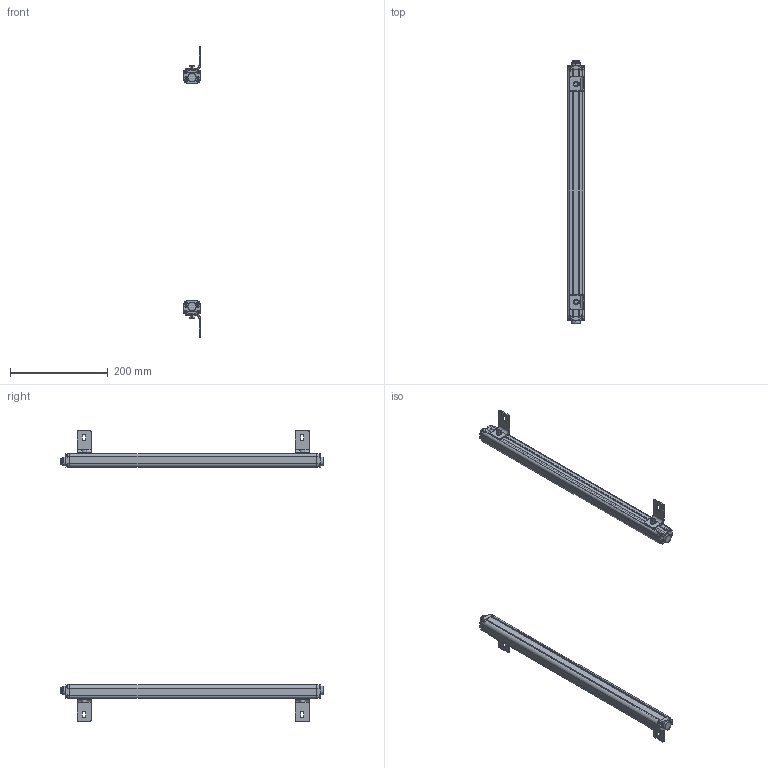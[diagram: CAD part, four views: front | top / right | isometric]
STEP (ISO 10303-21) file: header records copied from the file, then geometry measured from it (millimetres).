
FILE_DESCRIPTION (( 'STEP AP214' ), '1' );
FILE_NAME ('elg2420.STEP', '2018-03-08T11:56:07', ( '' ), ( '' ), 'SwSTEP 2.0', 'SolidWorks 2017', '' );
FILE_SCHEMA (( 'AUTOMOTIVE_DESIGN' ));
Length unit declared in the file: millimetre
Products named in the file (11): elgw-2420; czzj-2420; lgp-2420; dlx-2420; glgdg-2420; hkct1-2420; lx-2420; hk-2420; elgdg03-2420; elg2420; bz1-2420
Assembly tree (40 placements, depth 2):
  elg2420
    elgw-2420  x2
    bz1-2420  x2
    lgp-2420  x2
    glgdg-2420  x2
    elgdg03-2420  x2
    hkct1-2420  x2
    lx-2420  x16
    hk-2420  x4
    czzj-2420  x4
    dlx-2420  x4
Bounding box: 34.7 x 537.6 x 594 mm (x, y, z)
Volume: 394420.3 mm3; surface area: 411473.1 mm2
Topology: 40 solids, 40 shells, 2192 faces, 5736 edges, 3636 vertices
Faces by surface type: cylinder 1048, plane 688, bspline 456
Entity records: 144033 total; most frequent: CARTESIAN_POINT 128772, ORIENTED_EDGE 3220, DIRECTION 2882, EDGE_CURVE 1610, AXIS2_PLACEMENT_3D 1053, VERTEX_POINT 1034, LINE 776, VECTOR 776
